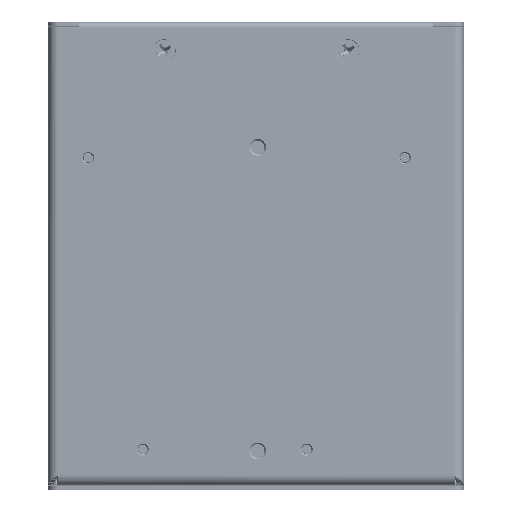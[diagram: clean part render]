
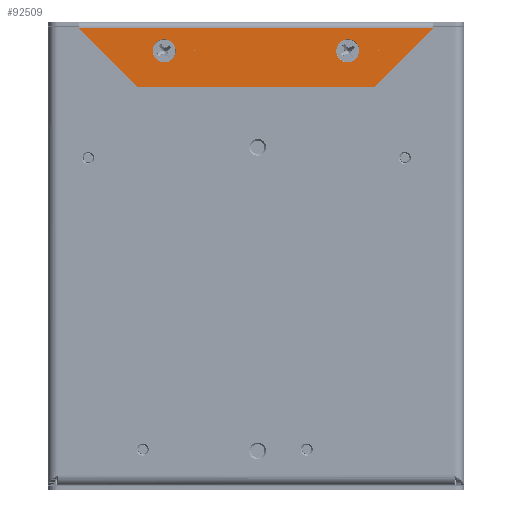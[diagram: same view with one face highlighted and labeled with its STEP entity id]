
A CAD part, front view. The second image highlights one B-rep face of the part: STEP entity #92509.
In plain terms, the highlighted planar face has unit normal (0, -1, 0).
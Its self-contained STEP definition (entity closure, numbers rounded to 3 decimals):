
#39 = DIRECTION ( 'NONE',  ( 0., 0., 1. ) ) ;
#774 = CARTESIAN_POINT ( 'NONE',  ( -25.4, -26.734, -42.663 ) ) ;
#2730 = CARTESIAN_POINT ( 'NONE',  ( -36.766, -26.733, -47.282 ) ) ;
#3105 = VECTOR ( 'NONE', #136450, 1000. ) ;
#3831 = CARTESIAN_POINT ( 'NONE',  ( 12.7, -26.734, -42.536 ) ) ;
#6855 = DIRECTION ( 'NONE',  ( 0., -1., 0. ) ) ;
#8829 = VERTEX_POINT ( 'NONE', #27867 ) ;
#9094 = VERTEX_POINT ( 'NONE', #35116 ) ;
#9936 = AXIS2_PLACEMENT_3D ( 'NONE', #13298, #6855, #142265 ) ;
#11808 = DIRECTION ( 'NONE',  ( 0., 1., 0. ) ) ;
#12170 = CARTESIAN_POINT ( 'NONE',  ( -25.4, -26.734, -42.663 ) ) ;
#13298 = CARTESIAN_POINT ( 'NONE',  ( -19.05, -26.734, -42.568 ) ) ;
#13547 = DIRECTION ( 'NONE',  ( 0., -1., 0. ) ) ;
#14777 = CARTESIAN_POINT ( 'NONE',  ( -19.05, -26.734, -42.568 ) ) ;
#14842 = CARTESIAN_POINT ( 'NONE',  ( -24.447, -26.734, -34.963 ) ) ;
#16100 = EDGE_CURVE ( 'NONE', #37211, #139850, #74994, .T. ) ;
#20372 = CARTESIAN_POINT ( 'NONE',  ( -19.05, -26.734, -44.968 ) ) ;
#21714 = CARTESIAN_POINT ( 'NONE',  ( 19.05, -26.734, -44.968 ) ) ;
#23672 = ORIENTED_EDGE ( 'NONE', *, *, #78409, .T. ) ;
#23812 = CARTESIAN_POINT ( 'NONE',  ( 36.766, -26.734, -47.282 ) ) ;
#24441 = FACE_BOUND ( 'NONE', #105700, .T. ) ;
#26040 = CIRCLE ( 'NONE', #95417, 0.127 ) ;
#27677 = CIRCLE ( 'NONE', #35122, 0.127 ) ;
#27867 = CARTESIAN_POINT ( 'NONE',  ( 12.7, -26.734, -42.79 ) ) ;
#29374 = CARTESIAN_POINT ( 'NONE',  ( 12.7, -26.734, -42.663 ) ) ;
#30884 = LINE ( 'NONE', #77286, #75817 ) ;
#31050 = AXIS2_PLACEMENT_3D ( 'NONE', #774, #11808, #89212 ) ;
#32509 = LINE ( 'NONE', #47065, #3105 ) ;
#32931 = FACE_BOUND ( 'NONE', #63623, .T. ) ;
#33835 = VERTEX_POINT ( 'NONE', #2730 ) ;
#35116 = CARTESIAN_POINT ( 'NONE',  ( 24.447, -26.734, -34.963 ) ) ;
#35122 = AXIS2_PLACEMENT_3D ( 'NONE', #29374, #130371, #119304 ) ;
#37211 = VERTEX_POINT ( 'NONE', #20372 ) ;
#42620 = CIRCLE ( 'NONE', #88524, 2.4 ) ;
#43959 = DIRECTION ( 'NONE',  ( -1., 0., 0. ) ) ;
#44544 = EDGE_CURVE ( 'NONE', #8829, #81259, #26040, .T. ) ;
#47065 = CARTESIAN_POINT ( 'NONE',  ( 0., -26.734, -47.282 ) ) ;
#49520 = DIRECTION ( 'NONE',  ( -0.707, 0., -0.707 ) ) ;
#51764 = CARTESIAN_POINT ( 'NONE',  ( 24.447, -26.734, -34.963 ) ) ;
#51821 = FACE_OUTER_BOUND ( 'NONE', #129309, .T. ) ;
#54389 = VERTEX_POINT ( 'NONE', #21714 ) ;
#54457 = CIRCLE ( 'NONE', #31050, 0.127 ) ;
#54803 = ORIENTED_EDGE ( 'NONE', *, *, #16100, .F. ) ;
#56182 = EDGE_CURVE ( 'NONE', #121543, #9094, #142605, .T. ) ;
#57387 = AXIS2_PLACEMENT_3D ( 'NONE', #14777, #57862, #135195 ) ;
#57862 = DIRECTION ( 'NONE',  ( 0., -1., 0. ) ) ;
#62871 = DIRECTION ( 'NONE',  ( -0.707, 0., 0.707 ) ) ;
#63623 = EDGE_LOOP ( 'NONE', ( #112250, #68585 ) ) ;
#66225 = PLANE ( 'NONE',  #139266 ) ;
#68585 = ORIENTED_EDGE ( 'NONE', *, *, #44544, .T. ) ;
#68781 = CIRCLE ( 'NONE', #79136, 2.4 ) ;
#69295 = CARTESIAN_POINT ( 'NONE',  ( 19.05, -26.734, -42.568 ) ) ;
#69662 = EDGE_CURVE ( 'NONE', #117875, #33835, #84579, .T. ) ;
#69985 = EDGE_CURVE ( 'NONE', #54389, #127505, #68781, .T. ) ;
#72224 = CARTESIAN_POINT ( 'NONE',  ( -36.766, -26.734, -47.282 ) ) ;
#73171 = EDGE_CURVE ( 'NONE', #139850, #37211, #115192, .T. ) ;
#74994 = CIRCLE ( 'NONE', #57387, 2.4 ) ;
#75817 = VECTOR ( 'NONE', #43959, 1000. ) ;
#76877 = VECTOR ( 'NONE', #62871, 1000. ) ;
#77286 = CARTESIAN_POINT ( 'NONE',  ( -36.766, -26.734, -34.963 ) ) ;
#77654 = DIRECTION ( 'NONE',  ( 0., 0., 1. ) ) ;
#78409 = EDGE_CURVE ( 'NONE', #103316, #97773, #54457, .T. ) ;
#79136 = AXIS2_PLACEMENT_3D ( 'NONE', #69295, #103610, #102201 ) ;
#79738 = CARTESIAN_POINT ( 'NONE',  ( 19.05, -26.734, -42.568 ) ) ;
#81259 = VERTEX_POINT ( 'NONE', #3831 ) ;
#84579 = LINE ( 'NONE', #72224, #93199 ) ;
#85573 = EDGE_LOOP ( 'NONE', ( #54803, #104889 ) ) ;
#86943 = CARTESIAN_POINT ( 'NONE',  ( 12.7, -26.734, -42.663 ) ) ;
#87662 = ORIENTED_EDGE ( 'NONE', *, *, #56182, .T. ) ;
#88524 = AXIS2_PLACEMENT_3D ( 'NONE', #79738, #13547, #113099 ) ;
#89212 = DIRECTION ( 'NONE',  ( 0., 0., 1. ) ) ;
#90150 = AXIS2_PLACEMENT_3D ( 'NONE', #12170, #132551, #121945 ) ;
#90364 = CARTESIAN_POINT ( 'NONE',  ( 0., -26.734, 0. ) ) ;
#92509 = ADVANCED_FACE ( 'NONE', ( #132355, #24441, #117700, #32931, #51821 ), #66225, .F. ) ;
#93199 = VECTOR ( 'NONE', #49520, 1000. ) ;
#93640 = EDGE_CURVE ( 'NONE', #9094, #117875, #30884, .T. ) ;
#93977 = ORIENTED_EDGE ( 'NONE', *, *, #112463, .F. ) ;
#95417 = AXIS2_PLACEMENT_3D ( 'NONE', #86943, #120729, #77654 ) ;
#96350 = CIRCLE ( 'NONE', #90150, 0.127 ) ;
#97773 = VERTEX_POINT ( 'NONE', #115715 ) ;
#98028 = EDGE_CURVE ( 'NONE', #97773, #103316, #96350, .T. ) ;
#98159 = ORIENTED_EDGE ( 'NONE', *, *, #93640, .T. ) ;
#101414 = ORIENTED_EDGE ( 'NONE', *, *, #69985, .F. ) ;
#102201 = DIRECTION ( 'NONE',  ( 0., 0., -1. ) ) ;
#103316 = VERTEX_POINT ( 'NONE', #120747 ) ;
#103610 = DIRECTION ( 'NONE',  ( 0., -1., 0. ) ) ;
#104889 = ORIENTED_EDGE ( 'NONE', *, *, #73171, .F. ) ;
#105700 = EDGE_LOOP ( 'NONE', ( #101414, #131909 ) ) ;
#109550 = EDGE_LOOP ( 'NONE', ( #23672, #114740 ) ) ;
#112250 = ORIENTED_EDGE ( 'NONE', *, *, #127553, .T. ) ;
#112463 = EDGE_CURVE ( 'NONE', #121543, #33835, #32509, .T. ) ;
#113099 = DIRECTION ( 'NONE',  ( 0., 0., -1. ) ) ;
#113327 = ORIENTED_EDGE ( 'NONE', *, *, #69662, .T. ) ;
#114740 = ORIENTED_EDGE ( 'NONE', *, *, #98028, .T. ) ;
#115192 = CIRCLE ( 'NONE', #9936, 2.4 ) ;
#115715 = CARTESIAN_POINT ( 'NONE',  ( -25.4, -26.734, -42.79 ) ) ;
#117700 = FACE_BOUND ( 'NONE', #109550, .T. ) ;
#117875 = VERTEX_POINT ( 'NONE', #14842 ) ;
#119304 = DIRECTION ( 'NONE',  ( 0., 0., 1. ) ) ;
#120729 = DIRECTION ( 'NONE',  ( 0., 1., 0. ) ) ;
#120747 = CARTESIAN_POINT ( 'NONE',  ( -25.4, -26.734, -42.536 ) ) ;
#121543 = VERTEX_POINT ( 'NONE', #23812 ) ;
#121945 = DIRECTION ( 'NONE',  ( 0., 0., 1. ) ) ;
#126596 = CARTESIAN_POINT ( 'NONE',  ( 19.05, -26.734, -40.168 ) ) ;
#127306 = CARTESIAN_POINT ( 'NONE',  ( -19.05, -26.734, -40.168 ) ) ;
#127505 = VERTEX_POINT ( 'NONE', #126596 ) ;
#127553 = EDGE_CURVE ( 'NONE', #81259, #8829, #27677, .T. ) ;
#129309 = EDGE_LOOP ( 'NONE', ( #93977, #87662, #98159, #113327 ) ) ;
#130371 = DIRECTION ( 'NONE',  ( 0., 1., 0. ) ) ;
#131909 = ORIENTED_EDGE ( 'NONE', *, *, #138706, .F. ) ;
#132355 = FACE_BOUND ( 'NONE', #85573, .T. ) ;
#132551 = DIRECTION ( 'NONE',  ( 0., 1., 0. ) ) ;
#133367 = DIRECTION ( 'NONE',  ( 0., 1., 0. ) ) ;
#135195 = DIRECTION ( 'NONE',  ( 0., 0., -1. ) ) ;
#136450 = DIRECTION ( 'NONE',  ( -1., 0., 0. ) ) ;
#138706 = EDGE_CURVE ( 'NONE', #127505, #54389, #42620, .T. ) ;
#139266 = AXIS2_PLACEMENT_3D ( 'NONE', #90364, #133367, #39 ) ;
#139850 = VERTEX_POINT ( 'NONE', #127306 ) ;
#142265 = DIRECTION ( 'NONE',  ( 0., 0., -1. ) ) ;
#142605 = LINE ( 'NONE', #51764, #76877 ) ;
